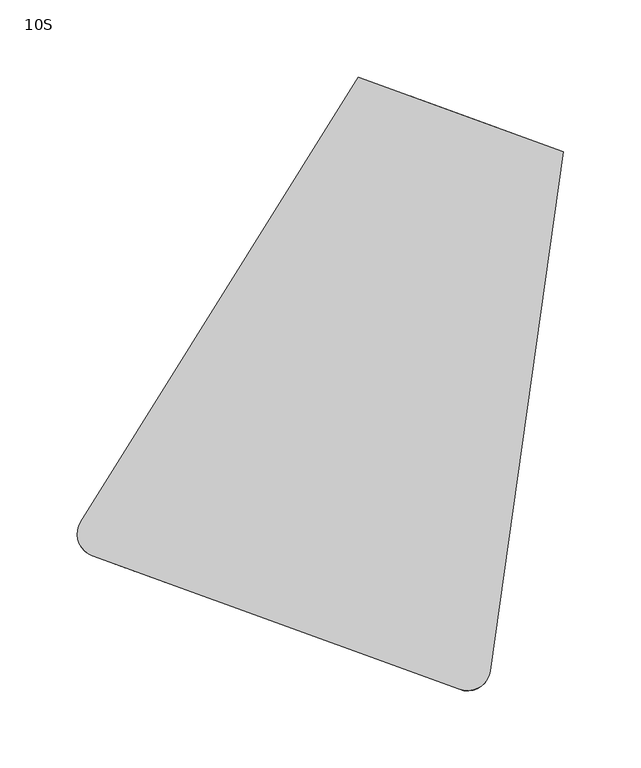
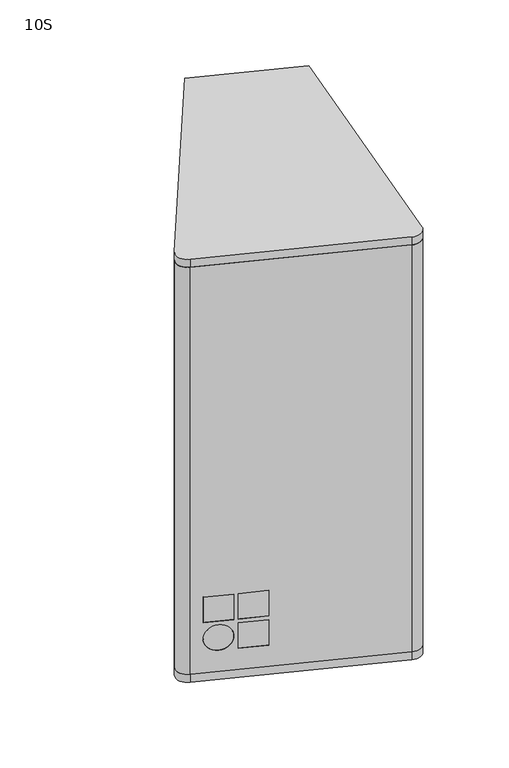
"""IFC4 building model written with IfcOpenShell, lengths in millimetres: proxy geometry, d&b xS-Series 10S Point Source : 10S."""

from ifc_helpers import new_model, si_unit, point, frame, frame_2d, origin, place, context, project, spatial, polyline, circle_curve, trimmed, segment, composite_curve, outline, extrude, source, transform, mapped, element, save
from ifc_brep_helpers import plane_surface, cylinder_surface, revolved_surface, advanced_brep


def proxy_10s_125b0857(model_context):
    return source(origin(), model_context, "Body", "SolidModel", [
        extrude(outline(composite_curve([segment(trimmed(circle_curve(frame_2d((64.1258509, -140.6305272)), 10.0), [point((74.1207608, -140.9495519))], [point((60.7056495, -150.0274534))], False, "CARTESIAN"), True, "CONTINUOUS"), segment(polyline([(60.7056495, -150.0274534), (-176.9924982, -63.5124029)]), True, "CONTINUOUS"), segment(trimmed(circle_curve(frame_2d((-173.5722968, -54.1154767)), 10.0), [point((-176.9924982, -63.5124029))], [point((-181.433907, -47.9352596))], False, "CARTESIAN"), True, "CONTINUOUS"), segment(polyline([(-181.433907, -47.9352596), (74.1207608, -140.9495519)]), True, "CONTINUOUS")], self_intersect=False)), frame((0.0, 0.0, -279.0), z_axis=(0.0, 0.0, 1.0), x_axis=(1.0, 0.0, 0.0)), (0.0, 0.0, 1.0), 558.0),
        advanced_brep(
        [(-131.7179679, -85.3118732, -175.0), (-130.0078672, -80.6134101, -175.0), (-130.0078672, -80.6134101, -210.0), (-131.7179679, -85.3118732, -210.0), (-162.8971089, -68.6427051, -210.0), (-164.6072096, -73.3411682, -210.0), (-162.8971089, -68.6427051, -175.0), (-164.6072096, -73.3411682, -175.0), (-94.130263, -98.9926789, -175.0), (-92.4201623, -94.2942158, -175.0), (-92.4201623, -94.2942158, -210.0), (-94.130263, -98.9926789, -210.0), (-125.3094041, -82.3235108, -210.0), (-127.0195048, -87.0219739, -210.0), (-125.3094041, -82.3235108, -175.0), (-127.0195048, -87.0219739, -175.0), (-94.130263, -98.9926789, -215.0), (-92.4201623, -94.2942158, -215.0), (-92.4201623, -94.2942158, -250.0), (-94.130263, -98.9926789, -250.0), (-125.3094041, -82.3235108, -250.0), (-127.0195048, -87.0219739, -250.0), (-125.3094041, -82.3235108, -215.0), (-127.0195048, -87.0219739, -215.0), (-148.1625887, -79.3265207, -250.0), (-146.452488, -74.6280576, -250.0), (-146.452488, -74.6280576, -215.0), (-148.1625887, -79.3265207, -215.0), (-178.7025989, -68.210866, 279.0), (58.9955488, -154.7259165, 279.0), (78.9798719, -142.7181237, 279.0), (74.1207608, -140.9495519, 279.0), (60.7056495, -150.0274534, 279.0), (-176.9924982, -63.5124029, 279.0), (-181.433907, -47.9352596, 279.0), (-186.2930182, -46.1666877, 279.0), (-178.7025989, -68.210866, -279.0), (-186.2930182, -46.1666877, -279.0), (-181.433907, -47.9352596, -279.0), (-176.9924982, -63.5124029, -279.0), (60.7056495, -150.0274534, -279.0), (74.1207608, -140.9495519, -279.0), (78.9798719, -142.7181237, -279.0), (58.9955488, -154.7259165, -279.0)],
        [
            (0, 1),
            (1, 2),
            (2, 3),
            (3, 0),
            (2, 4),
            (4, 5),
            (5, 3),
            (4, 6),
            (6, 7),
            (7, 5),
            (0, 7),
            (6, 1),
            (8, 9),
            (9, 10),
            (10, 11),
            (11, 8),
            (10, 12),
            (12, 13),
            (13, 11),
            (12, 14),
            (14, 15),
            (15, 13),
            (8, 15),
            (14, 9),
            (16, 17),
            (17, 18),
            (18, 19),
            (19, 16),
            (18, 20),
            (20, 21),
            (21, 19),
            (20, 22),
            (22, 23),
            (23, 21),
            (16, 23),
            (22, 17),
            (24, 25),
            (25, 26, circle_curve(frame((-146.452488, -74.6280576, -232.5), z_axis=(0.34202014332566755, 0.939692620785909, 0.0), x_axis=(0.0, 0.0, 1.0)), 17.5)),
            (26, 27),
            (27, 24, circle_curve(frame((-148.1625887, -79.3265207, -232.5), z_axis=(-0.34202014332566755, -0.939692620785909, 0.0), x_axis=(0.0, 0.0, 1.0)), 17.5)),
            (24, 27, circle_curve(frame((-148.1625887, -79.3265207, -232.5), z_axis=(-0.34202014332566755, -0.939692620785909, 0.0), x_axis=(0.0, 0.0, 1.0)), 17.5)),
            (26, 25, circle_curve(frame((-146.452488, -74.6280576, -232.5), z_axis=(0.34202014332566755, 0.939692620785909, 0.0), x_axis=(0.0, 0.0, 1.0)), 17.5)),
            (28, 29),
            (29, 30, circle_curve(frame((64.1258509, -140.6305272, 279.0), z_axis=(0.0, 0.0, 1.0), x_axis=(-0.3420201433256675, -0.9396926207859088, 0.0)), 15.0)),
            (30, 31),
            (31, 32, circle_curve(frame((64.1258509, -140.6305272, 279.0), z_axis=(0.0, 0.0, -1.0), x_axis=(-0.3420201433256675, -0.9396926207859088, 0.0)), 10.0)),
            (32, 33),
            (33, 34, circle_curve(frame((-173.5722968, -54.1154767, 279.0), z_axis=(0.0, 0.0, -1.0), x_axis=(-0.3420201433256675, -0.9396926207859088, 0.0)), 10.0)),
            (34, 35),
            (35, 28, circle_curve(frame((-173.5722968, -54.1154767, 279.0), z_axis=(0.0, 0.0, 1.0), x_axis=(-0.3420201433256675, -0.9396926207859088, 0.0)), 15.0)),
            (36, 37, circle_curve(frame((-173.5722968, -54.1154767, -279.0), z_axis=(0.0, 0.0, -1.0), x_axis=(-0.3420201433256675, -0.9396926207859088, 0.0)), 15.0)),
            (37, 38),
            (38, 39, circle_curve(frame((-173.5722968, -54.1154767, -279.0), z_axis=(0.0, 0.0, 1.0), x_axis=(-0.3420201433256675, -0.9396926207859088, 0.0)), 10.0)),
            (39, 40),
            (40, 41, circle_curve(frame((64.1258509, -140.6305272, -279.0), z_axis=(0.0, 0.0, 1.0), x_axis=(-0.3420201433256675, -0.9396926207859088, 0.0)), 10.0)),
            (41, 42),
            (42, 43, circle_curve(frame((64.1258509, -140.6305272, -279.0), z_axis=(0.0, 0.0, -1.0), x_axis=(-0.3420201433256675, -0.9396926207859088, 0.0)), 15.0)),
            (43, 36),
            (28, 36),
            (43, 29),
            (42, 30),
            (41, 31),
            (40, 32),
            (39, 33),
            (38, 34),
            (37, 35),
        ],
        [
            plane_surface(frame((-131.7179679, -85.3118732, -210.0), z_axis=(-0.9396926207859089, 0.34202014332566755, 0.0), x_axis=(0.34202014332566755, 0.9396926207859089, 0.0))),
            plane_surface(frame((-164.6072096, -73.3411682, -210.0), z_axis=(0.0, 0.0, 1.0000000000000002), x_axis=(0.34202014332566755, 0.9396926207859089, 0.0))),
            plane_surface(frame((-164.6072096, -73.3411682, -175.0), z_axis=(0.9396926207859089, -0.34202014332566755, 0.0), x_axis=(0.34202014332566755, 0.9396926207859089, 0.0))),
            plane_surface(frame((-131.7179679, -85.3118732, -175.0), z_axis=(0.0, 0.0, -1.0000000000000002), x_axis=(0.34202014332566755, 0.9396926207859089, 0.0))),
            plane_surface(frame((-94.130263, -98.9926789, -210.0), z_axis=(-0.9396926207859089, 0.34202014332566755, 0.0), x_axis=(0.34202014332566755, 0.9396926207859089, 0.0))),
            plane_surface(frame((-127.0195048, -87.0219739, -210.0), z_axis=(0.0, 0.0, 1.0000000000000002), x_axis=(0.34202014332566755, 0.9396926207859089, 0.0))),
            plane_surface(frame((-127.0195048, -87.0219739, -175.0), z_axis=(0.9396926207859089, -0.34202014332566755, 0.0), x_axis=(0.34202014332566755, 0.9396926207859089, 0.0))),
            plane_surface(frame((-94.130263, -98.9926789, -175.0), z_axis=(0.0, 0.0, -1.0000000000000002), x_axis=(0.34202014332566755, 0.9396926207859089, 0.0))),
            plane_surface(frame((-94.130263, -98.9926789, -250.0), z_axis=(-0.9396926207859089, 0.34202014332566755, 0.0), x_axis=(0.34202014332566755, 0.9396926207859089, 0.0))),
            plane_surface(frame((-127.0195048, -87.0219739, -250.0), z_axis=(0.0, 0.0, 1.0000000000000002), x_axis=(0.34202014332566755, 0.9396926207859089, 0.0))),
            plane_surface(frame((-127.0195048, -87.0219739, -215.0), z_axis=(0.9396926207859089, -0.34202014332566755, 0.0), x_axis=(0.34202014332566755, 0.9396926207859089, 0.0))),
            plane_surface(frame((-94.130263, -98.9926789, -215.0), z_axis=(0.0, 0.0, -1.0000000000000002), x_axis=(0.34202014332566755, 0.9396926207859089, 0.0))),
            revolved_surface(polyline([(-148.162588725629, -79.32652069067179, -215.0), (-146.45248801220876, -74.62805759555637, -215.0)]), (-136.9606452, -48.5494338, -232.5), (-0.3420201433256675, -0.9396926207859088, 0.0)),
            plane_surface(frame((58.9955488, -154.7259165, 279.0), z_axis=(0.0, 0.0, 1.0000000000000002), x_axis=(0.9396926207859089, -0.34202014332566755, 0.0))),
            plane_surface(frame((58.9955488, -154.7259165, -279.0), z_axis=(0.0, 0.0, -1.0000000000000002), x_axis=(-0.9396926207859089, 0.34202014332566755, 0.0))),
            plane_surface(frame((-178.7025989, -68.210866, 279.0), z_axis=(-0.34202014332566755, -0.9396926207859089, 0.0), x_axis=(0.0, 0.0, -1.0))),
            cylinder_surface(frame((64.1258509, -140.6305272, -279.0), z_axis=(0.0, 0.0, 1.0), x_axis=(-0.3420201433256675, -0.9396926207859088, 0.0)), 15.0),
            plane_surface(frame((78.9798719, -142.7181237, 279.0), z_axis=(0.3420201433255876, 0.939692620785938, 0.0), x_axis=(0.0, 0.0, -1.0))),
            revolved_surface(polyline([(60.70564946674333, -150.02745340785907, -279.0), (60.70564946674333, -150.02745340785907, 279.0)]), (64.1258509, -140.6305272, -279.0), (0.0, 0.0, -1.0)),
            plane_surface(frame((60.7056495, -150.0274534, 279.0), z_axis=(0.34202014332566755, 0.9396926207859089, 0.0), x_axis=(0.0, 0.0, -1.0))),
            revolved_surface(polyline([(-176.99249823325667, -63.51240290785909, -279.0), (-176.99249823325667, -63.51240290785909, 279.0)]), (-173.5722968, -54.1154767, -279.0), (0.0, 0.0, -1.0)),
            plane_surface(frame((-181.433907, -47.9352596, 279.0), z_axis=(0.342020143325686, 0.9396926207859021, 0.0), x_axis=(0.0, 0.0, -1.0))),
            cylinder_surface(frame((-173.5722968, -54.1154767, -279.0), z_axis=(0.0, 0.0, 1.0), x_axis=(-0.3420201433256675, -0.9396926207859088, 0.0)), 15.0),
        ],
        [
            (0, [[1, 2, 3, 4]]),
            (1, [[-3, 5, 6, 7]]),
            (2, [[-6, 8, 9, 10]]),
            (3, [[-1, 11, -9, 12]]),
            (4, [[13, 14, 15, 16]]),
            (5, [[-15, 17, 18, 19]]),
            (6, [[-18, 20, 21, 22]]),
            (7, [[-13, 23, -21, 24]]),
            (8, [[25, 26, 27, 28]]),
            (9, [[-27, 29, 30, 31]]),
            (10, [[-30, 32, 33, 34]]),
            (11, [[-25, 35, -33, 36]]),
            (12, [[37, 38, 39, 40]]),
            (12, [[-37, 41, -39, 42]]),
            (13, [[43, 44, 45, 46, 47, 48, 49, 50]]),
            (14, [[51, 52, 53, 54, 55, 56, 57, 58]]),
            (15, [[-43, 59, -58, 60], [-4, -7, -10, -11], [-16, -19, -22, -23], [-28, -31, -34, -35], [-40, -41]]),
            (16, [[-44, -60, -57, 61]]),
            (17, [[-45, -61, -56, 62]]),
            (18, [[-46, -62, -55, 63]]),
            (19, [[-47, -63, -54, 64], [-2, -12, -8, -5], [-14, -24, -20, -17], [-26, -36, -32, -29], [-38, -42]]),
            (20, [[-48, -64, -53, 65]]),
            (21, [[-49, -65, -52, 66]]),
            (22, [[-50, -66, -51, -59]]),
        ],
    ),
        extrude(outline(polyline([(-131.7179679, -85.3118732), (-164.6072096, -73.3411682), (-162.8971089, -68.6427051), (-130.0078672, -80.6134101), (-131.7179679, -85.3118732)])), frame((0.0, 0.0, -210.0), z_axis=(0.0, 0.0, 1.0), x_axis=(1.0, 0.0, 0.0)), (0.0, 0.0, 1.0), 35.0),
        extrude(outline(polyline([(-94.130263, -98.9926789), (-127.0195048, -87.0219739), (-125.3094041, -82.3235108), (-92.4201623, -94.2942158), (-94.130263, -98.9926789)])), frame((0.0, 0.0, -210.0), z_axis=(0.0, 0.0, 1.0), x_axis=(1.0, 0.0, 0.0)), (0.0, 0.0, 1.0), 35.0),
        extrude(outline(polyline([(-94.130263, -98.9926789), (-127.0195048, -87.0219739), (-125.3094041, -82.3235108), (-92.4201623, -94.2942158), (-94.130263, -98.9926789)])), frame((0.0, 0.0, -250.0), z_axis=(0.0, 0.0, 1.0), x_axis=(1.0, 0.0, 0.0)), (0.0, 0.0, 1.0), 35.0),
        extrude(outline(composite_curve([segment(trimmed(circle_curve(frame_2d((-12.5, -57.5)), 17.5), [point((-12.5, -75.0))], [point((-12.5, -40.0))], False, "CARTESIAN"), True, "CONTINUOUS"), segment(trimmed(circle_curve(frame_2d((-12.5, -57.5)), 17.5), [point((-12.5, -40.0))], [point((-12.5, -75.0))], False, "CARTESIAN"), True, "CONTINUOUS")], self_intersect=False)), frame((-159.9087465, -75.0512689, -175.0), z_axis=(0.34202014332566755, 0.9396926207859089, 0.0), x_axis=(-0.9396926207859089, 0.34202014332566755, 0.0)), (0.0, 0.0, 1.0), 5.0),
        advanced_brep(
        [(-186.2930182, -46.1666877, -290.0), (-6.4936636, 241.5724278, -290.0), (126.2007137, 193.2756242, -290.0), (78.9798719, -142.7181237, -290.0), (58.9955488, -154.7259165, -290.0), (-178.7025989, -68.210866, -290.0), (78.9798719, -142.7181237, 290.0), (126.2007137, 193.2756242, 290.0), (-6.4936636, 241.5724278, 290.0), (-186.2930182, -46.1666877, 290.0), (-178.7025989, -68.210866, 290.0), (58.9955488, -154.7259165, 290.0), (25.9382229, 226.5756532, 126.0), (34.3954565, 223.4974719, 135.0), (83.2594728, 205.7124244, 135.0), (91.7167064, 202.6342431, 126.0), (91.7167064, 202.6342431, 14.0), (83.2594728, 205.7124244, 5.0), (34.3954565, 223.4974719, 5.0), (25.9382229, 226.5756532, 14.0), (34.424087, 223.4870513, 23.0304679), (45.7003984, 219.3828095, 11.0304679), (71.9545309, 209.8270868, 11.0304679), (83.2308423, 205.7228451, 23.0304679), (83.2308423, 205.7228451, 95.9695321), (71.9545309, 209.8270868, 107.9695321), (45.7003984, 219.3828095, 107.9695321), (34.424087, 223.4870513, 95.9695321), (26.9642834, 229.394731, 126.0), (35.4215169, 226.3165497, 135.0), (84.2855332, 208.5315023, 135.0), (92.7427668, 205.453321, 126.0), (92.7427668, 205.453321, 14.0), (84.2855332, 208.5315023, 5.0), (35.4215169, 226.3165497, 5.0), (26.9642834, 229.394731, 14.0), (40.2280761, 204.3477276, 11.0304679), (28.9517647, 208.4519693, 23.0304679), (28.9517647, 208.4519693, 95.9695321), (40.2280761, 204.3477276, 107.9695321), (66.4822086, 194.7920048, 107.9695321), (77.7585201, 190.6877631, 95.9695321), (77.7585201, 190.6877631, 23.0304679), (66.4822086, 194.7920048, 11.0304679), (78.9798719, -142.7181237, 279.0), (58.9955488, -154.7259165, 279.0), (-178.7025989, -68.210866, 279.0), (-186.2930182, -46.1666877, 279.0), (-186.2930182, -46.1666877, -279.0), (-178.7025989, -68.210866, -279.0), (58.9955488, -154.7259165, -279.0), (78.9798719, -142.7181237, -279.0)],
        [
            (0, 1),
            (1, 2),
            (2, 3),
            (3, 4, circle_curve(frame((64.1258509, -140.6305272, -290.0), z_axis=(0.0, 0.0, -1.0), x_axis=(-0.3420201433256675, -0.9396926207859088, 0.0)), 15.0)),
            (4, 5),
            (5, 0, circle_curve(frame((-173.5722968, -54.1154767, -290.0), z_axis=(0.0, 0.0, -1.0), x_axis=(-0.3420201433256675, -0.9396926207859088, 0.0)), 15.0)),
            (6, 7),
            (7, 8),
            (8, 9),
            (9, 10, circle_curve(frame((-173.5722968, -54.1154767, 290.0), z_axis=(0.0, 0.0, 1.0), x_axis=(-0.3420201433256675, -0.9396926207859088, 0.0)), 15.0)),
            (10, 11),
            (11, 6, circle_curve(frame((64.1258509, -140.6305272, 290.0), z_axis=(0.0, 0.0, 1.0), x_axis=(-0.3420201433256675, -0.9396926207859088, 0.0)), 15.0)),
            (12, 13, circle_curve(frame((34.3954565, 223.4974719, 126.0), z_axis=(0.3420201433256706, 0.9396926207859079, 0.0), x_axis=(-0.9396926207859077, 0.34202014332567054, 0.0)), 9.0)),
            (13, 14),
            (14, 15, circle_curve(frame((83.2594728, 205.7124244, 126.0), z_axis=(0.3420201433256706, 0.9396926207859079, 0.0), x_axis=(-0.9396926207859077, 0.34202014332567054, 0.0)), 9.0)),
            (15, 16),
            (16, 17, circle_curve(frame((83.2594728, 205.7124244, 14.0), z_axis=(0.3420201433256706, 0.9396926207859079, 0.0), x_axis=(-0.9396926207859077, 0.34202014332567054, 0.0)), 9.0)),
            (17, 18),
            (18, 19, circle_curve(frame((34.3954565, 223.4974719, 14.0), z_axis=(0.3420201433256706, 0.9396926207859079, 0.0), x_axis=(-0.9396926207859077, 0.34202014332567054, 0.0)), 9.0)),
            (19, 12),
            (20, 21, circle_curve(frame((45.7003984, 219.3828095, 23.0304679), z_axis=(-0.3420201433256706, -0.9396926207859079, 0.0), x_axis=(-0.9396926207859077, 0.34202014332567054, 0.0)), 12.0)),
            (21, 22),
            (22, 23, circle_curve(frame((71.9545309, 209.8270868, 23.0304679), z_axis=(-0.3420201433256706, -0.9396926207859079, 0.0), x_axis=(-0.9396926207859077, 0.34202014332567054, 0.0)), 12.0)),
            (23, 24),
            (24, 25, circle_curve(frame((71.9545309, 209.8270868, 95.9695321), z_axis=(-0.3420201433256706, -0.9396926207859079, 0.0), x_axis=(-0.9396926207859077, 0.34202014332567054, 0.0)), 12.0)),
            (25, 26),
            (26, 27, circle_curve(frame((45.7003984, 219.3828095, 95.9695321), z_axis=(-0.3420201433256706, -0.9396926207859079, 0.0), x_axis=(-0.9396926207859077, 0.34202014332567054, 0.0)), 12.0)),
            (27, 20),
            (12, 28),
            (28, 29, circle_curve(frame((35.4215169, 226.3165497, 126.0), z_axis=(0.3420201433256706, 0.9396926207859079, 0.0), x_axis=(-0.9396926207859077, 0.34202014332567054, 0.0)), 9.0)),
            (29, 13),
            (29, 30),
            (30, 14),
            (30, 31, circle_curve(frame((84.2855332, 208.5315023, 126.0), z_axis=(0.3420201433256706, 0.9396926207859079, 0.0), x_axis=(-0.9396926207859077, 0.34202014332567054, 0.0)), 9.0)),
            (31, 15),
            (31, 32),
            (32, 16),
            (32, 33, circle_curve(frame((84.2855332, 208.5315023, 14.0), z_axis=(0.3420201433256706, 0.9396926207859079, 0.0), x_axis=(-0.9396926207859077, 0.34202014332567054, 0.0)), 9.0)),
            (33, 17),
            (33, 34),
            (34, 18),
            (34, 35, circle_curve(frame((35.4215169, 226.3165497, 14.0), z_axis=(0.3420201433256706, 0.9396926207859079, 0.0), x_axis=(-0.9396926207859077, 0.34202014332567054, 0.0)), 9.0)),
            (35, 19),
            (35, 28),
            (36, 37, circle_curve(frame((40.2280761, 204.3477276, 23.0304679), z_axis=(0.3420201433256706, 0.9396926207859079, 0.0), x_axis=(-0.9396926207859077, 0.34202014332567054, 0.0)), 12.0)),
            (37, 38),
            (38, 39, circle_curve(frame((40.2280761, 204.3477276, 95.9695321), z_axis=(0.3420201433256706, 0.9396926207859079, 0.0), x_axis=(-0.9396926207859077, 0.34202014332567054, 0.0)), 12.0)),
            (39, 40),
            (40, 41, circle_curve(frame((66.4822086, 194.7920048, 95.9695321), z_axis=(0.3420201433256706, 0.9396926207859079, 0.0), x_axis=(-0.9396926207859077, 0.34202014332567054, 0.0)), 12.0)),
            (41, 42),
            (42, 43, circle_curve(frame((66.4822086, 194.7920048, 23.0304679), z_axis=(0.3420201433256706, 0.9396926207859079, 0.0), x_axis=(-0.9396926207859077, 0.34202014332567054, 0.0)), 12.0)),
            (43, 36),
            (44, 45, circle_curve(frame((64.1258509, -140.6305272, 279.0), z_axis=(0.0, 0.0, -1.0), x_axis=(-0.3420201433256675, -0.9396926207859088, 0.0)), 15.0)),
            (45, 46),
            (46, 47, circle_curve(frame((-173.5722968, -54.1154767, 279.0), z_axis=(0.0, 0.0, -1.0), x_axis=(-0.3420201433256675, -0.9396926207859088, 0.0)), 15.0)),
            (47, 44),
            (48, 49, circle_curve(frame((-173.5722968, -54.1154767, -279.0), z_axis=(0.0, 0.0, 1.0), x_axis=(-0.3420201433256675, -0.9396926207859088, 0.0)), 15.0)),
            (49, 50),
            (50, 51, circle_curve(frame((64.1258509, -140.6305272, -279.0), z_axis=(0.0, 0.0, 1.0), x_axis=(-0.3420201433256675, -0.9396926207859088, 0.0)), 15.0)),
            (51, 48),
            (0, 48),
            (48, 47),
            (47, 9),
            (8, 1),
            (7, 2),
            (6, 44),
            (44, 51),
            (51, 3),
            (36, 21),
            (20, 37),
            (27, 38),
            (26, 39),
            (25, 40),
            (24, 41),
            (23, 42),
            (22, 43),
            (46, 10),
            (45, 11),
            (5, 49),
            (4, 50),
        ],
        [
            plane_surface(frame((-12.674349, 231.6812634, -290.0), z_axis=(0.0, 0.0, -1.0000000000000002), x_axis=(0.5299192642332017, 0.8480480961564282, 0.0))),
            plane_surface(frame((-12.674349, 231.6812634, 290.0), z_axis=(0.0, 0.0, 1.0000000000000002), x_axis=(-0.5299192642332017, -0.8480480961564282, 0.0))),
            plane_surface(frame((25.9382229, 226.5756532, 126.0), z_axis=(0.3420201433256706, 0.9396926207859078, 0.0), x_axis=(0.0, 0.0, -1.0))),
            revolved_surface(polyline([(26.964283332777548, 229.39473102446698, 126.0), (25.938222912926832, 226.57565318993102, 126.0)]), (34.3954565, 223.4974719, 126.0), (0.34202014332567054, 0.9396926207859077, 0.0)),
            plane_surface(frame((35.4215169, 226.3165497, 135.0), z_axis=(0.0, 0.0, -1.0000000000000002), x_axis=(-0.34202014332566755, -0.9396926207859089, 0.0))),
            revolved_surface(polyline([(75.82829965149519, 211.60968357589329, 126.0), (74.80223921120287, 208.7906056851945, 126.0)]), (83.2594728, 205.7124244, 126.0), (0.34202014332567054, 0.9396926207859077, 0.0)),
            plane_surface(frame((92.7427668, 205.453321, 126.0), z_axis=(-0.9396926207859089, 0.34202014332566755, 0.0), x_axis=(-0.34202014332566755, -0.9396926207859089, 0.0))),
            revolved_surface(polyline([(75.82829965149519, 211.60968357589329, 14.0), (74.80223921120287, 208.7906056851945, 14.0)]), (83.2594728, 205.7124244, 14.0), (0.34202014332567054, 0.9396926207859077, 0.0)),
            plane_surface(frame((84.2855332, 208.5315023, 5.0), z_axis=(0.0, 0.0, 1.0000000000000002), x_axis=(-0.34202014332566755, -0.9396926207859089, 0.0))),
            revolved_surface(polyline([(26.964283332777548, 229.39473102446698, 14.0), (25.938222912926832, 226.57565318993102, 14.0)]), (34.3954565, 223.4974719, 14.0), (0.34202014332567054, 0.9396926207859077, 0.0)),
            plane_surface(frame((26.9642834, 229.394731, 14.0), z_axis=(0.9396926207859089, -0.34202014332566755, 0.0), x_axis=(-0.34202014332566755, -0.9396926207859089, 0.0))),
            plane_surface(frame((28.9517647, 208.4519693, 23.0304679), z_axis=(0.3420201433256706, 0.9396926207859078, 0.0), x_axis=(0.0, 0.0, -1.0))),
            plane_surface(frame((-178.7025989, -68.210866, 279.0), z_axis=(0.0, 0.0, -1.0000000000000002), x_axis=(-0.9396926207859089, 0.34202014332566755, 0.0))),
            plane_surface(frame((-178.7025989, -68.210866, -279.0), z_axis=(0.0, 0.0, 1.0000000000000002), x_axis=(0.9396926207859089, -0.34202014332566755, 0.0))),
            plane_surface(frame((-186.2930182, -46.1666877, -290.0), z_axis=(-0.8480480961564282, 0.5299192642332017, 0.0), x_axis=(0.0, 0.0, 1.0))),
            plane_surface(frame((-6.4936636, 241.5724278, -290.0), z_axis=(0.34202014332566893, 0.9396926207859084, 0.0), x_axis=(0.0, 0.0, 1.0))),
            plane_surface(frame((126.2007137, 193.2756242, -290.0), z_axis=(0.9902680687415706, -0.13917310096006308, 0.0), x_axis=(0.0, 0.0, 1.0))),
            plane_surface(frame((78.9798719, -142.7181237, -290.0), z_axis=(-0.3420201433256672, -0.939692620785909, 0.0), x_axis=(0.0, 0.0, 1.0))),
            revolved_surface(polyline([(34.42408696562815, 223.48705131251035, 23.0304679), (28.9517646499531, 208.4519693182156, 23.0304679)]), (40.2280761, 204.3477276, 23.0304679), (0.34202014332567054, 0.9396926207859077, 0.0)),
            plane_surface(frame((35.4501474, 226.3061291, 23.0304679), z_axis=(0.9396926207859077, -0.34202014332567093, 0.0), x_axis=(-0.34202014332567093, -0.9396926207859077, 0.0))),
            revolved_surface(polyline([(34.42408696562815, 223.48705131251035, 95.9695321), (28.9517646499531, 208.4519693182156, 95.9695321)]), (40.2280761, 204.3477276, 95.9695321), (0.34202014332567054, 0.9396926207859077, 0.0)),
            plane_surface(frame((46.7264588, 222.2018874, 107.9695321), z_axis=(0.0, 0.0, -1.0), x_axis=(-0.34202014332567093, -0.9396926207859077, 0.0))),
            revolved_surface(polyline([(60.67821946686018, 213.93132851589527, 95.9695321), (55.205897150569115, 198.89624651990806, 95.9695321)]), (66.4822086, 194.7920048, 95.9695321), (0.34202014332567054, 0.9396926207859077, 0.0)),
            plane_surface(frame((84.2569028, 208.5419229, 95.9695321), z_axis=(-0.9396926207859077, 0.34202014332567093, 0.0), x_axis=(-0.34202014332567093, -0.9396926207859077, 0.0))),
            revolved_surface(polyline([(60.67821946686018, 213.93132851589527, 23.0304679), (55.205897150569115, 198.89624651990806, 23.0304679)]), (66.4822086, 194.7920048, 23.0304679), (0.34202014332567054, 0.9396926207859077, 0.0)),
            plane_surface(frame((72.9805913, 212.6461646, 11.0304679), z_axis=(0.0, 0.0, 1.0), x_axis=(-0.34202014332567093, -0.9396926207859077, 0.0))),
            cylinder_surface(frame((-173.5722968, -54.1154767, 279.0), z_axis=(0.0, 0.0, 1.0), x_axis=(-0.3420201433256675, -0.9396926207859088, 0.0)), 15.0),
            plane_surface(frame((-178.7025989, -68.210866, 290.0), z_axis=(-0.34202014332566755, -0.9396926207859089, 0.0), x_axis=(0.0, 0.0, -1.0))),
            cylinder_surface(frame((64.1258509, -140.6305272, 279.0), z_axis=(0.0, 0.0, 1.0), x_axis=(-0.3420201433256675, -0.9396926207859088, 0.0)), 15.0),
            cylinder_surface(frame((-173.5722968, -54.1154767, -290.0), z_axis=(0.0, 0.0, 1.0), x_axis=(-0.3420201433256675, -0.9396926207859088, 0.0)), 15.0),
            plane_surface(frame((-178.7025989, -68.210866, -279.0), z_axis=(-0.34202014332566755, -0.9396926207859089, 0.0), x_axis=(0.0, 0.0, -1.0))),
            cylinder_surface(frame((64.1258509, -140.6305272, -290.0), z_axis=(0.0, 0.0, 1.0), x_axis=(-0.3420201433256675, -0.9396926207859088, 0.0)), 15.0),
        ],
        [
            (0, [[1, 2, 3, 4, 5, 6]]),
            (1, [[7, 8, 9, 10, 11, 12]]),
            (2, [[13, 14, 15, 16, 17, 18, 19, 20], [21, 22, 23, 24, 25, 26, 27, 28]]),
            (3, [[-13, 29, 30, 31]]),
            (4, [[-14, -31, 32, 33]]),
            (5, [[-15, -33, 34, 35]]),
            (6, [[-16, -35, 36, 37]]),
            (7, [[-17, -37, 38, 39]]),
            (8, [[-18, -39, 40, 41]]),
            (9, [[-19, -41, 42, 43]]),
            (10, [[-20, -43, 44, -29]]),
            (11, [[45, 46, 47, 48, 49, 50, 51, 52]]),
            (12, [[53, 54, 55, 56]]),
            (13, [[57, 58, 59, 60]]),
            (14, [[-1, 61, 62, 63, -9, 64]]),
            (15, [[-2, -64, -8, 65], [-30, -44, -42, -40, -38, -36, -34, -32]]),
            (16, [[-3, -65, -7, 66, 67, 68]]),
            (17, [[-56, -62, -60, -67]]),
            (18, [[-45, 69, -21, 70]]),
            (19, [[-46, -70, -28, 71]]),
            (20, [[-47, -71, -27, 72]]),
            (21, [[-48, -72, -26, 73]]),
            (22, [[-49, -73, -25, 74]]),
            (23, [[-50, -74, -24, 75]]),
            (24, [[-51, -75, -23, 76]]),
            (25, [[-52, -76, -22, -69]]),
            (26, [[-10, -63, -55, 77]]),
            (27, [[-11, -77, -54, 78]]),
            (28, [[-12, -78, -53, -66]]),
            (29, [[-57, -61, -6, 79]]),
            (30, [[-58, -79, -5, 80]]),
            (31, [[-59, -80, -4, -68]]),
        ],
    ),
    ])


if __name__ == "__main__":
    model = new_model("IFC4")
    model_context = context("Model", 3, world=origin())
    ifc_project = project(units=[si_unit("LENGTHUNIT", "METRE", prefix="MILLI")], contexts=[model_context])
    site = spatial("IfcSite", under=ifc_project)
    building = spatial("IfcBuilding", under=site)
    placement = place(None, origin())
    proxy_10s_shape = proxy_10s_125b0857(model_context)
    element("IfcBuildingElementProxy", 1, Name="d&b xS-Series 10S Point Source : 10S", ObjectType="d&b xS-Series 10S Point Source : 10S", at=placement, inside=building, context=model_context, shape_type="MappedRepresentation", body=[
        mapped(proxy_10s_shape, transform((0.0, 0.0, 0.0), x_axis=(1.0, 0.0, 0.0), y_axis=(0.0, 1.0, 0.0), z_axis=(0.0, 0.0, 1.0))),
    ])
    save(model, "model.ifc")
